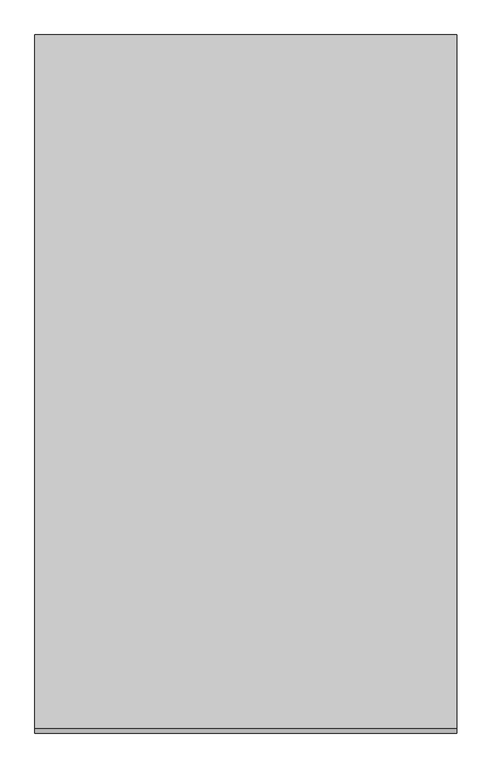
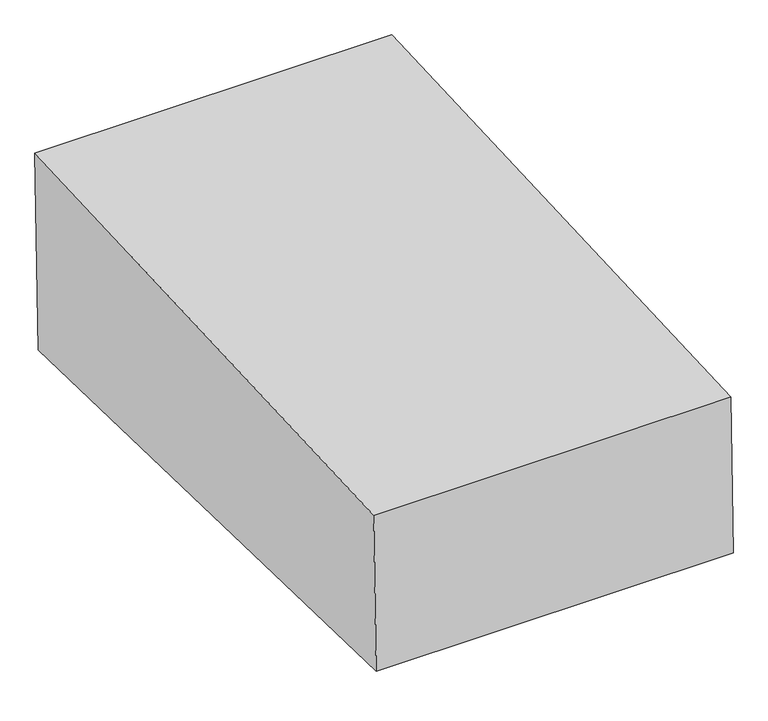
"""IFC4 building model written with IfcOpenShell, lengths in millimetres: proxy geometry, Excavation FamilySP : Excavation FamilySP."""

import ifcopenshell
import ifcopenshell.guid

model = None  # the IFC model being written
_history = None  # IfcOwnerHistory: only IFC2X3 demands one
_inside = {}  # id of a spatial element -> (the spatial element, [elements in it])
_under = {}  # id of a project, library or spatial element -> (it, [spatial elements below it])
_declared = {}  # id of a project -> (the project, [libraries it declares])
_typed = {}  # id of a type object -> (the type object, [elements of that type])
_made_of = {}  # id of a material, layer set ... -> (it, [elements and type objects made of it])


def new_model(schema):
    """Start an empty IFC model of exactly this schema.

    Asked for "IFC4X3", IfcOpenShell would pick the latest addendum, in which some entities
    have other attributes; the version numbers below select the first issue.
    IFC2X3 requires an IfcOwnerHistory on every rooted entity: one is made here for all.
    """
    global model, _history
    if schema == "IFC4X3":
        model = ifcopenshell.file(schema_version=(4, 3, 0, 0))
    else:
        model = ifcopenshell.file(schema=schema)
    _inside.clear()
    _under.clear()
    _declared.clear()
    _typed.clear()
    _made_of.clear()
    _history = None
    if model.schema == "IFC2X3":
        org = make("IfcOrganization", Name="unknown")
        user = make(
            "IfcPersonAndOrganization",
            ThePerson=make("IfcPerson", FamilyName="unknown"),
            TheOrganization=org,
        )
        app = make(
            "IfcApplication",
            ApplicationDeveloper=org,
            Version="unknown",
            ApplicationFullName="unknown",
            ApplicationIdentifier="unknown",
        )
        _history = make(
            "IfcOwnerHistory",
            OwningUser=user,
            OwningApplication=app,
            ChangeAction="ADDED",
            CreationDate=0,
        )
    return model


def make(cls, **values):
    """One entity of the class cls with the attributes given. An attribute that is None is left unset."""
    return model.create_entity(
        cls, **{name: value for name, value in values.items() if value is not None}
    )


def rooted(cls, **values):
    """An entity with a GlobalId (a new one), such as an element, a storey or a relation."""
    return make(cls, GlobalId=ifcopenshell.guid.new(), OwnerHistory=_history, **values)


def si_unit(unit_type, name, prefix=None):
    """IfcSIUnit, for example si_unit("LENGTHUNIT", "METRE", prefix="MILLI")."""
    return make("IfcSIUnit", UnitType=unit_type, Prefix=prefix, Name=name)


def assignment(units):
    """IfcUnitAssignment: the units of a project."""
    return None if units is None else make("IfcUnitAssignment", Units=units)


def point(xyz):
    """IfcCartesianPoint."""
    return None if xyz is None else make("IfcCartesianPoint", Coordinates=xyz)


def direction(xyz):
    """IfcDirection."""
    return None if xyz is None else make("IfcDirection", DirectionRatios=xyz)


def frame(location, z_axis=None, x_axis=None):
    """IfcAxis2Placement3D, a coordinate frame: its origin and axes. An axis left out is left unset."""
    return make(
        "IfcAxis2Placement3D",
        Location=point(location),
        Axis=direction(z_axis),
        RefDirection=direction(x_axis),
    )


def origin():
    """The frame at (0, 0, 0) with its axes left unset."""
    return frame((0.0, 0.0, 0.0))


def place(relative_to, where):
    """IfcLocalPlacement: puts the frame where relative to a parent placement (None: the world)."""
    return make(
        "IfcLocalPlacement", PlacementRelTo=relative_to, RelativePlacement=where
    )


def context(
    kind, dimensions, precision=None, world=None, true_north=None, identifier=None
):
    """IfcGeometricRepresentationContext, for example the 3D "Model" context."""
    return make(
        "IfcGeometricRepresentationContext",
        ContextIdentifier=identifier,
        ContextType=kind,
        CoordinateSpaceDimension=dimensions,
        Precision=precision,
        WorldCoordinateSystem=world,
        TrueNorth=true_north,
    )


def project(units=None, contexts=None):
    """IfcProject with its units and contexts."""
    return rooted(
        "IfcProject",
        Name="project",
        RepresentationContexts=contexts,
        UnitsInContext=assignment(units),
    )


def spatial(cls, under=None, at=None, **own):
    """A site, building, storey or space (cls), placed at a placement, below another one or the project."""
    s = rooted(cls, ObjectPlacement=at, **own)
    if under is not None:
        _under.setdefault(under.id(), (under, []))[1].append(s)
    return s


def polyline(points):
    """IfcPolyline through the points."""
    return make("IfcPolyline", Points=[point(p) for p in points])


def outline(outer, holes=None, kind="AREA"):
    """IfcArbitraryClosedProfileDef: a profile drawn as a closed curve; with holes, ...WithVoids."""
    if holes is None:
        return make("IfcArbitraryClosedProfileDef", ProfileType=kind, OuterCurve=outer)
    return make(
        "IfcArbitraryProfileDefWithVoids",
        ProfileType=kind,
        OuterCurve=outer,
        InnerCurves=holes,
    )


def extrude(swept, where, along, depth):
    """IfcExtrudedAreaSolid: the profile swept, set in the frame where, extruded along a direction by depth."""
    return make(
        "IfcExtrudedAreaSolid",
        SweptArea=swept,
        Position=where,
        ExtrudedDirection=direction(along),
        Depth=depth,
    )


def shape(context_of_items, identifier, shape_type, items):
    """IfcShapeRepresentation: the items that make up one representation, for example the "Body"."""
    return make(
        "IfcShapeRepresentation",
        ContextOfItems=context_of_items,
        RepresentationIdentifier=identifier,
        RepresentationType=shape_type,
        Items=items,
    )


def source(mapping_origin, context_of_items, identifier, shape_type, items):
    """IfcRepresentationMap: a shape defined once, which mapped items show again and again."""
    return make(
        "IfcRepresentationMap",
        MappingOrigin=mapping_origin,
        MappedRepresentation=shape(context_of_items, identifier, shape_type, items),
    )


def transform(
    local_origin,
    x_axis=None,
    y_axis=None,
    z_axis=None,
    scale=None,
    scale2=None,
    scale3=None,
    uniform=True,
):
    """IfcCartesianTransformationOperator3D, or its non-uniform kind. x_axis, y_axis, z_axis: its Axis1, 2, 3."""
    if uniform:
        return make(
            "IfcCartesianTransformationOperator3D",
            Axis1=direction(x_axis),
            Axis2=direction(y_axis),
            LocalOrigin=point(local_origin),
            Scale=scale,
            Axis3=direction(z_axis),
        )
    return make(
        "IfcCartesianTransformationOperator3DnonUniform",
        Axis1=direction(x_axis),
        Axis2=direction(y_axis),
        LocalOrigin=point(local_origin),
        Scale=scale,
        Axis3=direction(z_axis),
        Scale2=scale2,
        Scale3=scale3,
    )


def mapped(mapping_source, mapping_target):
    """IfcMappedItem: shows the shape of a source again, moved by a transform."""
    return make(
        "IfcMappedItem", MappingSource=mapping_source, MappingTarget=mapping_target
    )


def made_of(thing, what):
    """Note that an element or type object is made of a material, layer set ...; save() writes the relation."""
    if what is not None:
        _made_of.setdefault(what.id(), (what, []))[1].append(thing)
    return thing


def element(
    cls,
    number,
    at=None,
    inside=None,
    cuts=None,
    type_object=None,
    material=None,
    context=None,
    identifier="Body",
    shape_type=None,
    held_by="IfcProductDefinitionShape",
    body=None,
    shapes=None,
    **own,
):
    """One element of the class cls, such as IfcWall. Its Tag is "e" and its number.

    at: its placement. inside: the storey or other place that contains it. cuts: it is an
    opening in that element (IfcRelVoidsElement). A single representation is given by context,
    identifier, shape_type and body (its items); several are given by shapes. held_by: the class
    of the entity that holds the representations. save() writes the other relations.
    """
    e = rooted(cls, Tag="e%d" % number, ObjectPlacement=at, **own)
    if body is not None:
        shapes = [shape(context, identifier, shape_type, body)]
    if shapes is not None:
        e.Representation = make(held_by, Representations=shapes)
    if inside is not None:
        _inside.setdefault(inside.id(), (inside, []))[1].append(e)
    if cuts is not None:
        rooted(
            "IfcRelVoidsElement", RelatingBuildingElement=cuts, RelatedOpeningElement=e
        )
    if type_object is not None:
        _typed.setdefault(type_object.id(), (type_object, []))[1].append(e)
    return made_of(e, material)


def aggregate(whole, parts):
    """IfcRelAggregates: a whole, such as a stair, and the parts it consists of."""
    return rooted("IfcRelAggregates", RelatingObject=whole, RelatedObjects=parts)


def save(model, path):
    """Write the relations noted so far, then the file.

    IfcRelAggregates (storeys below a building ...), IfcRelContainedInSpatialStructure (elements
    in a storey), IfcRelDefinesByType, IfcRelAssociatesMaterial and IfcRelDeclares: one each for
    every whole, place, type object, material and project.
    """
    for whole, parts in _under.values():
        aggregate(whole, parts)
    for where, things in _inside.values():
        rooted(
            "IfcRelContainedInSpatialStructure",
            RelatedElements=things,
            RelatingStructure=where,
        )
    for kind, things in _typed.values():
        rooted("IfcRelDefinesByType", RelatedObjects=things, RelatingType=kind)
    for what, things in _made_of.values():
        rooted("IfcRelAssociatesMaterial", RelatedObjects=things, RelatingMaterial=what)
    for by, libraries in _declared.values():
        rooted("IfcRelDeclares", RelatingContext=by, RelatedDefinitions=libraries)
    model.write(path)


def generic_models_aa4903e3(model_context):
    return source(origin(), model_context, "Body", "SweptSolid", [
        extrude(outline(polyline([(46.0633271, 1752.6328768), (0.0, 0.0), (-4998.2739957, 131.3664335), (-4961.810993, 1518.7229536), (46.0633271, 1752.6328768)])), frame((-1524.0, 0.0, 0.0), z_axis=(1.0, 0.0, 0.0), x_axis=(0.0, 1.0, 0.0)), (0.0, 0.0, 1.0), 3048.0),
    ])


if __name__ == "__main__":
    model = new_model("IFC4")
    model_context = context("Model", 3, world=origin())
    ifc_project = project(units=[si_unit("LENGTHUNIT", "METRE", prefix="MILLI")], contexts=[model_context])
    site = spatial("IfcSite", under=ifc_project)
    building = spatial("IfcBuilding", under=site)
    placement = place(None, origin())
    generic_models_shape = generic_models_aa4903e3(model_context)
    element("IfcBuildingElementProxy", 1, Name="Excavation FamilySP : Excavation FamilySP", ObjectType="Excavation FamilySP : Excavation FamilySP", at=placement, inside=building, context=model_context, shape_type="MappedRepresentation", body=[
        mapped(generic_models_shape, transform((0.0, 0.0, 0.0), x_axis=(1.0, 0.0, 0.0), y_axis=(0.0, 1.0, 0.0), z_axis=(0.0, 0.0, 1.0))),
    ])
    save(model, "model.ifc")
